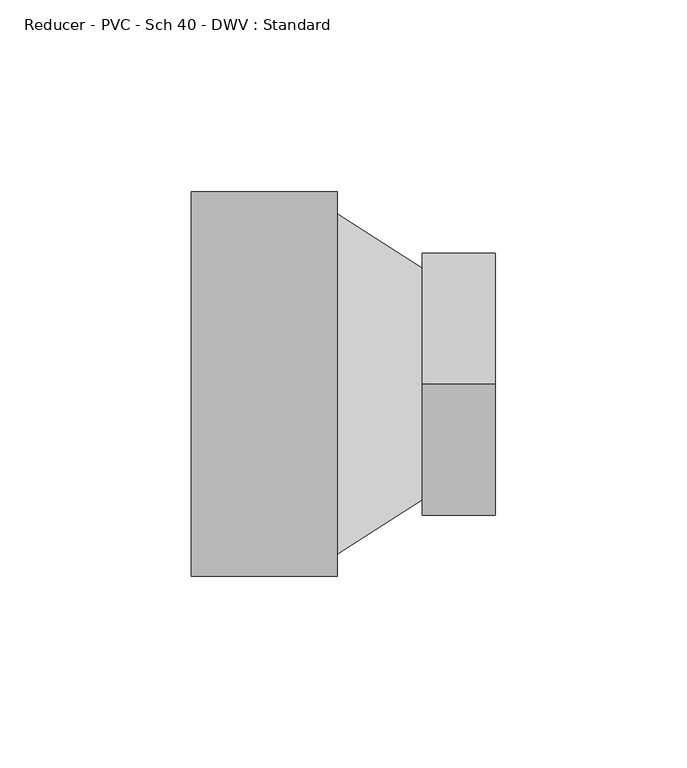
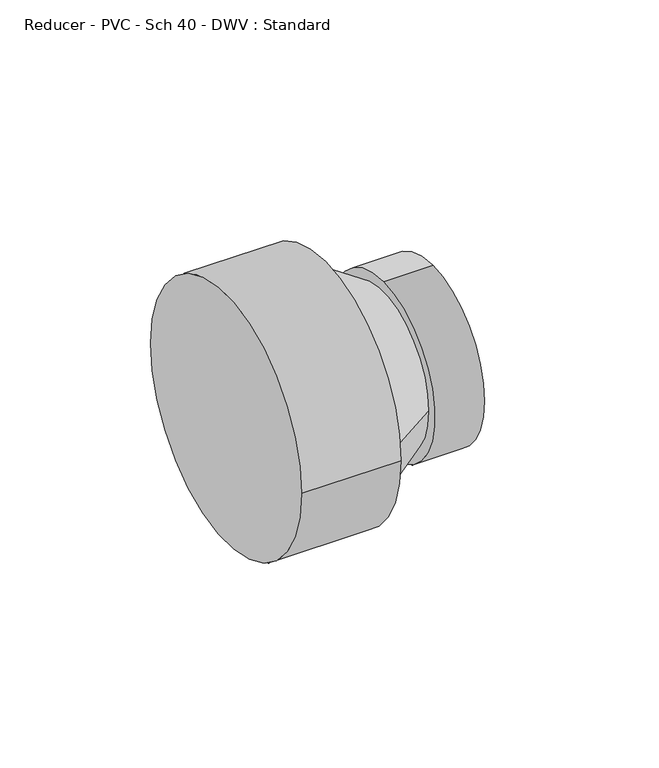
"""IFC4 building model written with IfcOpenShell, lengths in millimetres: pipe fitting geometry, Reducer - PVC - Sch 40 - DWV : Standard."""

from ifc_helpers import new_model, si_unit, frame, origin, place, context, project, spatial, circle_curve, source, transform, mapped, element, save
from ifc_brep_helpers import plane_surface, cylinder_surface, spline_surface, advanced_brep


def reducer_pvc_sch_40_dwv_standard_e27c0a4c(model_context):
    return source(origin(), model_context, "Body", "AdvancedBrep", [
        advanced_brep(
        [(0.0, -50.2666, 0.0), (0.0, 50.2666, 0.0), (38.1, -50.2666, 0.0), (38.1, 50.2666, 0.0), (38.1, 44.45, 0.0), (38.1, -44.45, 0.0), (60.325, 30.1625, 0.0007736), (60.325, -30.1625, 0.0007736), (60.325, 0.0, 34.3161736), (60.325, 0.0, -34.3146264), (79.375, 0.0, 34.3161736), (79.375, 0.0, -34.3146264)],
        [
            (0, 1, circle_curve(frame((0.0, 0.0, 0.0), z_axis=(-1.0, 0.0, 0.0), x_axis=(0.0, 1.0, 0.0)), 50.2666)),
            (1, 0, circle_curve(frame((0.0, 0.0, 0.0), z_axis=(-1.0, 0.0, 0.0), x_axis=(0.0, 1.0, 0.0)), 50.2666)),
            (2, 3, circle_curve(frame((38.1, 0.0, 0.0), z_axis=(1.0, 0.0, 0.0), x_axis=(0.0, 1.0, 0.0)), 50.2666)),
            (3, 2, circle_curve(frame((38.1, 0.0, 0.0), z_axis=(1.0, 0.0, 0.0), x_axis=(0.0, 1.0, 0.0)), 50.2666)),
            (4, 5, circle_curve(frame((38.1, 0.0, 0.0), z_axis=(-1.0, 0.0, 0.0), x_axis=(0.0, 1.0, 0.0)), 44.45)),
            (5, 4, circle_curve(frame((38.1, 0.0, 0.0), z_axis=(-1.0, 0.0, 0.0), x_axis=(0.0, 1.0, 0.0)), 44.45)),
            (0, 2),
            (3, 1),
            (4, 6),
            (6, 7, circle_curve(frame((60.325, 0.0, 0.0007736), z_axis=(-1.0, 0.0, 0.0), x_axis=(0.0, 1.0, 0.0)), 30.1625)),
            (7, 5),
            (7, 6, circle_curve(frame((60.325, 0.0, 0.0007736), z_axis=(-1.0, 0.0, 0.0), x_axis=(0.0, 1.0, 0.0)), 30.1625)),
            (8, 9, circle_curve(frame((60.325, 0.0, 0.0007736), z_axis=(-1.0, 0.0, 0.0), x_axis=(0.0, 0.0, -1.0)), 34.3154)),
            (9, 8, circle_curve(frame((60.325, 0.0, 0.0007736), z_axis=(-1.0, 0.0, 0.0), x_axis=(0.0, 0.0, -1.0)), 34.3154)),
            (10, 11, circle_curve(frame((79.375, 0.0, 0.0007736), z_axis=(1.0, 0.0, 0.0), x_axis=(0.0, 0.0, -1.0)), 34.3154)),
            (11, 10, circle_curve(frame((79.375, 0.0, 0.0007736), z_axis=(1.0, 0.0, 0.0), x_axis=(0.0, 0.0, -1.0)), 34.3154)),
            (8, 10),
            (11, 9),
        ],
        [
            plane_surface(frame((0.0, 0.0, 0.0), z_axis=(-1.0, 0.0, 0.0), x_axis=(0.0, 0.0, 1.0))),
            plane_surface(frame((38.1, 0.0, 0.0), z_axis=(1.0, 0.0, 0.0), x_axis=(0.0, 0.0, 1.0))),
            cylinder_surface(frame((0.0, 0.0, 0.0), z_axis=(-1.0, 0.0, 0.0), x_axis=(0.0, 1.0, 0.0)), 50.2666),
            spline_surface(2, 1, [[(38.1, -44.45, 0.0), (60.325, -30.1625, 0.0007736)], [(38.1, -44.45, -44.45), (60.325, -30.1625, -30.161726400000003)], [(38.1, 0.0, -44.45), (60.325, 0.0, -30.161726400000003)], [(38.1, 44.45, -44.45), (60.325, 30.1625, -30.161726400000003)], [(38.1, 44.45, 0.0), (60.325, 30.1625, 0.0007736)]], [3, 2, 3], [2, 2], [0.0, 1.0, 2.0], [0.0, 1.0], weights=[[1.0, 1.0], [0.7071067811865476, 0.7071067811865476], [1.0, 1.0], [0.7071067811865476, 0.7071067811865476], [1.0, 1.0]]),
            spline_surface(2, 1, [[(38.1, 44.45, 0.0), (60.325, 30.1625, 0.0007736)], [(38.1, 44.45, 44.45), (60.325, 30.1625, 30.1632736)], [(38.1, 0.0, 44.45), (60.325, 0.0, 30.1632736)], [(38.1, -44.45, 44.45), (60.325, -30.1625, 30.1632736)], [(38.1, -44.45, 0.0), (60.325, -30.1625, 0.0007736)]], [3, 2, 3], [2, 2], [0.0, 1.0, 2.0], [0.0, 1.0], weights=[[1.0, 1.0], [0.7071067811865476, 0.7071067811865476], [1.0, 1.0], [0.7071067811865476, 0.7071067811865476], [1.0, 1.0]]),
            plane_surface(frame((60.325, 0.0, 0.0007736), z_axis=(-1.0, 0.0, 0.0), x_axis=(0.0, 1.0, 0.0))),
            plane_surface(frame((79.375, 0.0, 0.0007736), z_axis=(1.0, 0.0, 0.0), x_axis=(0.0, 1.0, 0.0))),
            cylinder_surface(frame((60.325, 0.0, 0.0007736), z_axis=(-1.0, 0.0, 0.0), x_axis=(0.0, 0.0, -1.0)), 34.3154),
        ],
        [
            (0, [[1, 2]]),
            (1, [[3, 4], [5, 6]]),
            (2, [[-1, 7, -4, 8]]),
            (2, [[-2, -8, -3, -7]]),
            (3, [[9, 10, 11, -5]]),
            (4, [[-9, -6, -11, 12]]),
            (5, [[13, 14], [-10, -12]]),
            (6, [[15, 16]]),
            (7, [[-13, 17, -16, 18]]),
            (7, [[-14, -18, -15, -17]]),
        ],
    ),
    ])


if __name__ == "__main__":
    model = new_model("IFC4")
    model_context = context("Model", 3, world=origin())
    ifc_project = project(units=[si_unit("LENGTHUNIT", "METRE", prefix="MILLI")], contexts=[model_context])
    site = spatial("IfcSite", under=ifc_project)
    building = spatial("IfcBuilding", under=site)
    placement = place(None, origin())
    reducer_pvc_sch_40_dwv_standard_shape = reducer_pvc_sch_40_dwv_standard_e27c0a4c(model_context)
    element("IfcPipeFitting", 1, ObjectType="Reducer - PVC - Sch 40 - DWV : Standard", at=placement, inside=building, context=model_context, shape_type="MappedRepresentation", body=[
        mapped(reducer_pvc_sch_40_dwv_standard_shape, transform((0.0, 0.0, 0.0), x_axis=(1.0, 0.0, 0.0), y_axis=(0.0, 1.0, 0.0), z_axis=(0.0, 0.0, 1.0))),
    ])
    save(model, "model.ifc")
